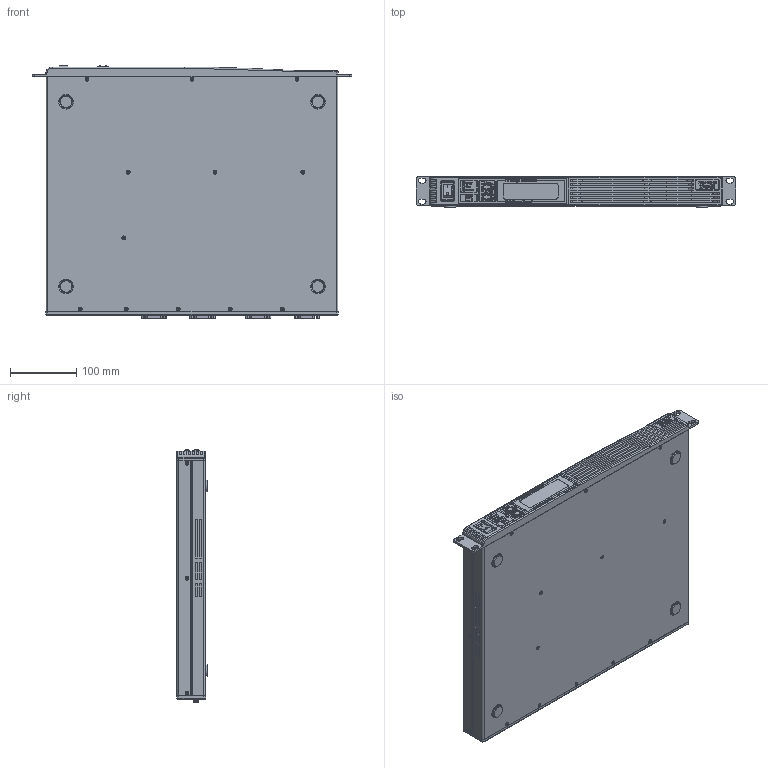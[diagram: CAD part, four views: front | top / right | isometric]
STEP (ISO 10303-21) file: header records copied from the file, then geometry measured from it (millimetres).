
FILE_DESCRIPTION (( 'STEP AP214' ), '1' );
FILE_NAME ('Step 8 - 7154-TEC MultiSource without rear straps.STEP', '2020-03-30T07:29:15', ( '' ), ( '' ), 'SwSTEP 2.0', 'SolidWorks 2019', '' );
FILE_SCHEMA (( 'AUTOMOTIVE_DESIGN' ));
Length unit declared in the file: inch
Products named in the file (1): Step 8 - 7154-TEC MultiSource without rear straps
Bounding box: 482.6 x 46.14 x 382.13 mm (x, y, z)
Volume: 7073021.9 mm3; surface area: 456795.9 mm2
Topology: 5 solids, 5 shells, 6293 faces, 16730 edges, 10926 vertices
Faces by surface type: plane 3875, bspline 1018, cylinder 934, cone 466
Entity records: 302286 total; most frequent: CARTESIAN_POINT 93397, ORIENTED_EDGE 33376, DIRECTION 26766, EDGE_CURVE 16688, VECTOR 11494, LINE 11494, VERTEX_POINT 10926, AXIS2_PLACEMENT_3D 7636
